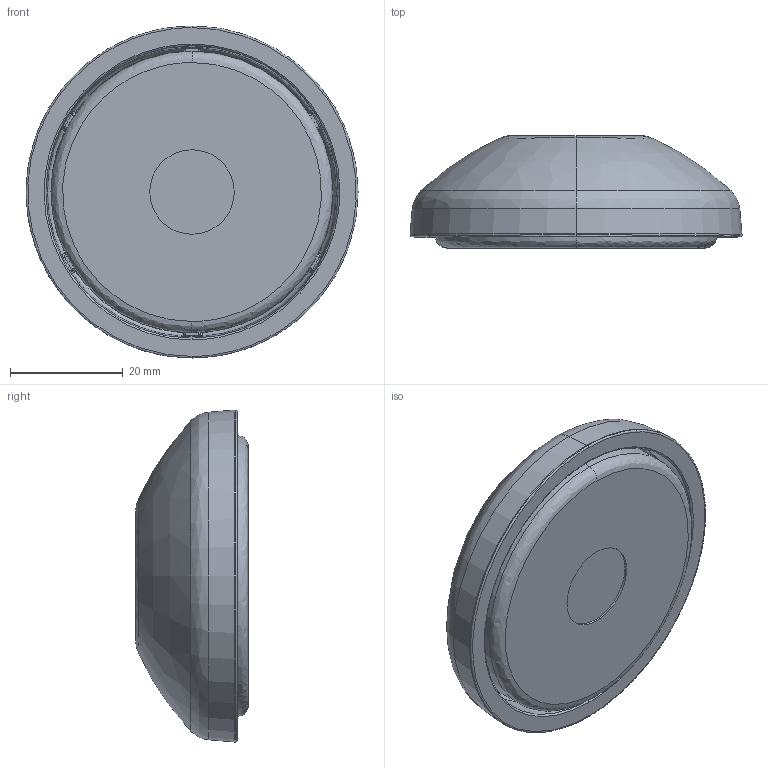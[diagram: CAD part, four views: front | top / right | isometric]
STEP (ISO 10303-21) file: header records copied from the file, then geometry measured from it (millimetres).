
FILE_DESCRIPTION (( 'STEP AP203' ), '1' );
FILE_NAME ('501335_Teller PA Ø60 für Gelenkstellfuß leitfähig inkl. Gummiteller.step', '2022-11-09T11:00:14', ( '' ), ( '' ), 'SwSTEP 2.0', 'SolidWorks 2021', '' );
FILE_SCHEMA (( 'CONFIG_CONTROL_DESIGN' ));
Length unit declared in the file: millimetre
Products named in the file (1): 501335_Teller PA Ø60 für Gelenkstellfuß leitfähig inkl. Gummiteller
Bounding box: 59 x 20 x 59 mm (x, y, z)
Volume: 29822.6 mm3; surface area: 15409.5 mm2
Topology: 2 solids, 2 shells, 393 faces, 925 edges, 514 vertices
Faces by surface type: bspline 286, plane 39, cylinder 38, cone 30
Entity records: 16561 total; most frequent: CARTESIAN_POINT 9540, ORIENTED_EDGE 1794, DIRECTION 1006, EDGE_CURVE 897, VERTEX_POINT 514, AXIS2_PLACEMENT_3D 457, B_SPLINE_CURVE_WITH_KNOTS 439, EDGE_LOOP 399
